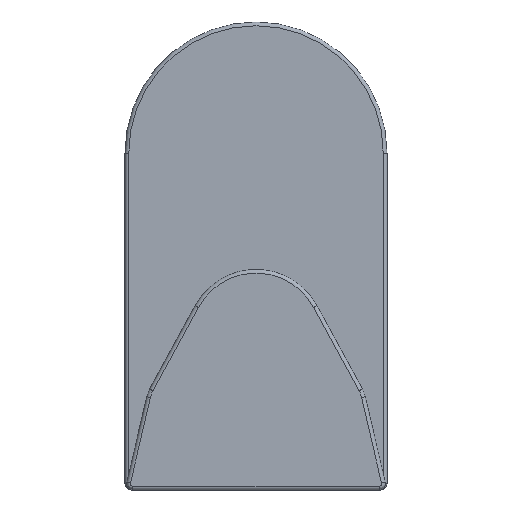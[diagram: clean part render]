
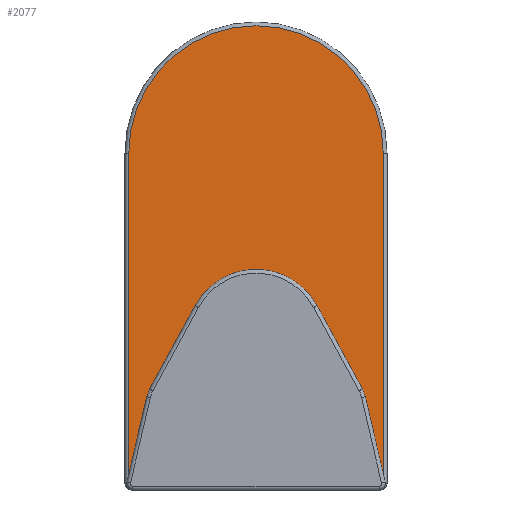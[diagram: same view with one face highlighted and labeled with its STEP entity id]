
A CAD part, front view. The second image highlights one B-rep face of the part: STEP entity #2077.
In plain terms, the highlighted planar face has unit normal (0, -1, 0).
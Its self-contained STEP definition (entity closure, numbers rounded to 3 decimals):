
#39=PLANE('',#2296);
#146=LINE('',#7425,#254);
#147=LINE('',#7429,#255);
#148=LINE('',#7433,#256);
#149=LINE('',#7435,#257);
#150=LINE('',#7439,#258);
#151=LINE('',#7443,#259);
#152=LINE('',#7447,#260);
#153=LINE('',#7448,#261);
#254=VECTOR('',#2798,10.);
#255=VECTOR('',#2801,10.);
#256=VECTOR('',#2804,10.);
#257=VECTOR('',#2805,10.);
#258=VECTOR('',#2808,10.);
#259=VECTOR('',#2811,10.);
#260=VECTOR('',#2814,10.);
#261=VECTOR('',#2815,10.);
#441=FACE_OUTER_BOUND('',#575,.T.);
#575=EDGE_LOOP('',(#1793,#1794,#1795,#1796,#1797,#1798,#1799,#1800,#1801,
#1802,#1803,#1804,#1805,#1806));
#706=CIRCLE('',#2297,6.);
#707=CIRCLE('',#2298,2.154);
#708=CIRCLE('',#2299,6.);
#709=CIRCLE('',#2300,0.4);
#710=CIRCLE('',#2301,20.2);
#711=CIRCLE('',#2302,0.4);
#959=VERTEX_POINT('',#7421);
#960=VERTEX_POINT('',#7422);
#961=VERTEX_POINT('',#7424);
#962=VERTEX_POINT('',#7426);
#963=VERTEX_POINT('',#7428);
#964=VERTEX_POINT('',#7430);
#965=VERTEX_POINT('',#7432);
#966=VERTEX_POINT('',#7434);
#967=VERTEX_POINT('',#7436);
#968=VERTEX_POINT('',#7438);
#969=VERTEX_POINT('',#7440);
#970=VERTEX_POINT('',#7442);
#971=VERTEX_POINT('',#7444);
#972=VERTEX_POINT('',#7446);
#1245=EDGE_CURVE('',#959,#960,#706,.T.);
#1246=EDGE_CURVE('',#961,#959,#146,.T.);
#1247=EDGE_CURVE('',#962,#961,#707,.T.);
#1248=EDGE_CURVE('',#963,#962,#147,.T.);
#1249=EDGE_CURVE('',#964,#963,#708,.T.);
#1250=EDGE_CURVE('',#965,#964,#148,.T.);
#1251=EDGE_CURVE('',#966,#965,#149,.T.);
#1252=EDGE_CURVE('',#967,#966,#709,.T.);
#1253=EDGE_CURVE('',#968,#967,#150,.T.);
#1254=EDGE_CURVE('',#969,#968,#710,.T.);
#1255=EDGE_CURVE('',#970,#969,#151,.T.);
#1256=EDGE_CURVE('',#971,#970,#711,.T.);
#1257=EDGE_CURVE('',#972,#971,#152,.T.);
#1258=EDGE_CURVE('',#960,#972,#153,.T.);
#1793=ORIENTED_EDGE('',*,*,#1245,.F.);
#1794=ORIENTED_EDGE('',*,*,#1246,.F.);
#1795=ORIENTED_EDGE('',*,*,#1247,.F.);
#1796=ORIENTED_EDGE('',*,*,#1248,.F.);
#1797=ORIENTED_EDGE('',*,*,#1249,.F.);
#1798=ORIENTED_EDGE('',*,*,#1250,.F.);
#1799=ORIENTED_EDGE('',*,*,#1251,.F.);
#1800=ORIENTED_EDGE('',*,*,#1252,.F.);
#1801=ORIENTED_EDGE('',*,*,#1253,.F.);
#1802=ORIENTED_EDGE('',*,*,#1254,.F.);
#1803=ORIENTED_EDGE('',*,*,#1255,.F.);
#1804=ORIENTED_EDGE('',*,*,#1256,.F.);
#1805=ORIENTED_EDGE('',*,*,#1257,.F.);
#1806=ORIENTED_EDGE('',*,*,#1258,.F.);
#2077=ADVANCED_FACE('',(#441),#39,.F.);
#2296=AXIS2_PLACEMENT_3D('',#7420,#2794,#2795);
#2297=AXIS2_PLACEMENT_3D('',#7423,#2796,#2797);
#2298=AXIS2_PLACEMENT_3D('',#7427,#2799,#2800);
#2299=AXIS2_PLACEMENT_3D('',#7431,#2802,#2803);
#2300=AXIS2_PLACEMENT_3D('',#7437,#2806,#2807);
#2301=AXIS2_PLACEMENT_3D('',#7441,#2809,#2810);
#2302=AXIS2_PLACEMENT_3D('',#7445,#2812,#2813);
#2794=DIRECTION('center_axis',(0.,1.,0.));
#2795=DIRECTION('ref_axis',(1.,0.,0.));
#2796=DIRECTION('center_axis',(0.,-1.,0.));
#2797=DIRECTION('ref_axis',(-0.927,0.,0.376));
#2798=DIRECTION('',(-0.499,0.,-0.867));
#2799=DIRECTION('center_axis',(0.,-1.,0.));
#2800=DIRECTION('ref_axis',(0.,0.,1.));
#2801=DIRECTION('',(-0.499,0.,0.867));
#2802=DIRECTION('center_axis',(0.,-1.,0.));
#2803=DIRECTION('ref_axis',(0.927,0.,0.376));
#2804=DIRECTION('',(-0.246,0.,0.969));
#2805=DIRECTION('',(-1.,0.,0.));
#2806=DIRECTION('center_axis',(0.,1.,0.));
#2807=DIRECTION('ref_axis',(0.707,0.,-0.707));
#2808=DIRECTION('',(0.,0.,-1.));
#2809=DIRECTION('center_axis',(0.,1.,0.));
#2810=DIRECTION('ref_axis',(0.,0.,1.));
#2811=DIRECTION('',(0.,0.,1.));
#2812=DIRECTION('center_axis',(0.,1.,0.));
#2813=DIRECTION('ref_axis',(-0.707,0.,-0.707));
#2814=DIRECTION('',(-1.,0.,0.));
#2815=DIRECTION('',(-0.246,0.,-0.969));
#7420=CARTESIAN_POINT('Origin',(0.,-3.,37.15));
#7421=CARTESIAN_POINT('',(-8.024,-3.,14.095));
#7422=CARTESIAN_POINT('',(-8.638,-3.,12.579));
#7423=CARTESIAN_POINT('Origin',(-2.823,-3.,11.103));
#7424=CARTESIAN_POINT('',(-1.867,-3.,24.799));
#7425=CARTESIAN_POINT('',(1.034,-3.,29.842));
#7426=CARTESIAN_POINT('',(1.867,-3.,24.799));
#7427=CARTESIAN_POINT('Origin',(0.,-3.,23.725));
#7428=CARTESIAN_POINT('',(8.024,-3.,14.095));
#7429=CARTESIAN_POINT('',(2.216,-3.,24.192));
#7430=CARTESIAN_POINT('',(8.638,-3.,12.579));
#7431=CARTESIAN_POINT('Origin',(2.823,-3.,11.103));
#7432=CARTESIAN_POINT('',(11.679,-3.,0.6));
#7433=CARTESIAN_POINT('',(7.013,-3.,18.984));
#7434=CARTESIAN_POINT('',(19.8,-3.,0.6));
#7435=CARTESIAN_POINT('',(-10.4,-3.,0.6));
#7436=CARTESIAN_POINT('',(20.2,-3.,1.));
#7437=CARTESIAN_POINT('Origin',(19.8,-3.,1.));
#7438=CARTESIAN_POINT('',(20.2,-3.,53.5));
#7439=CARTESIAN_POINT('',(20.2,-3.,18.575));
#7440=CARTESIAN_POINT('',(-20.2,-3.,53.5));
#7441=CARTESIAN_POINT('Origin',(0.,-3.,53.5));
#7442=CARTESIAN_POINT('',(-20.2,-3.,1.));
#7443=CARTESIAN_POINT('',(-20.2,-3.,45.325));
#7444=CARTESIAN_POINT('',(-19.8,-3.,0.6));
#7445=CARTESIAN_POINT('Origin',(-19.8,-3.,1.));
#7446=CARTESIAN_POINT('',(-11.679,-3.,0.6));
#7447=CARTESIAN_POINT('',(-10.4,-3.,0.6));
#7448=CARTESIAN_POINT('',(-5.363,-3.,25.484));
